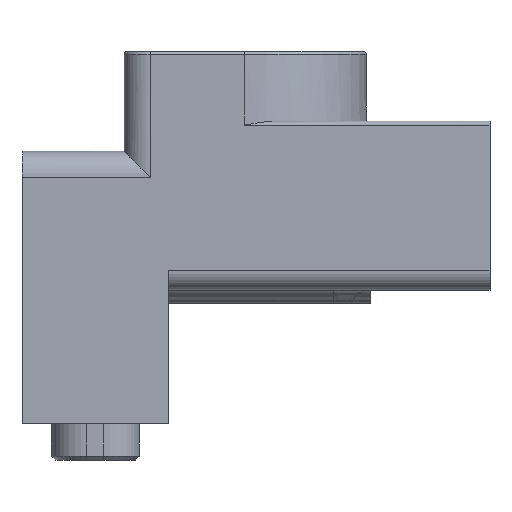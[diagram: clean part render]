
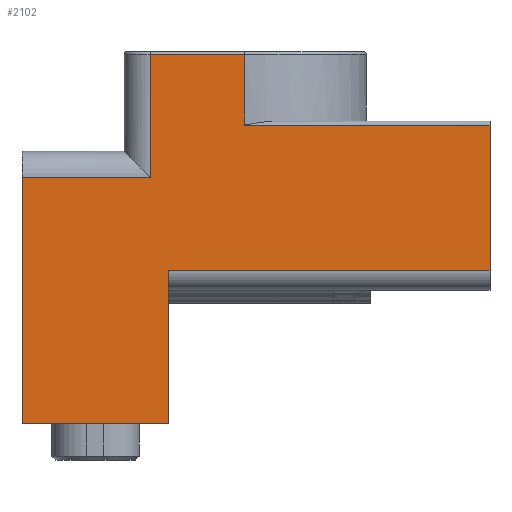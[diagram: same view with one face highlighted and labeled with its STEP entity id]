
A CAD part, left-side view. The second image highlights one B-rep face of the part: STEP entity #2102.
In plain terms, the highlighted planar face has unit normal (-1, 0, 0).
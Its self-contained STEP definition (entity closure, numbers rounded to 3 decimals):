
#45=DIRECTION('',(0.,-1.,0.));
#46=VECTOR('',#45,18.75);
#47=CARTESIAN_POINT('',(-9.3,19.5,65.2));
#48=LINE('',#47,#46);
#87=DIRECTION('',(0.,1.,0.));
#88=VECTOR('',#87,24.55);
#89=CARTESIAN_POINT('',(-9.3,0.75,54.1));
#90=LINE('',#89,#88);
#95=DIRECTION('',(0.,0.,1.));
#96=VECTOR('',#95,11.7);
#97=CARTESIAN_POINT('',(-9.3,25.3,42.4));
#98=LINE('',#97,#96);
#99=DIRECTION('',(0.,-1.,0.));
#100=VECTOR('',#99,11.2);
#101=CARTESIAN_POINT('',(-9.3,36.5,42.4));
#102=LINE('',#101,#100);
#103=DIRECTION('',(0.,0.,-1.));
#104=VECTOR('',#103,18.8);
#105=CARTESIAN_POINT('',(-9.3,36.5,61.2));
#106=LINE('',#105,#104);
#107=DIRECTION('',(0.,0.,1.));
#108=VECTOR('',#107,11.1);
#109=CARTESIAN_POINT('',(-9.3,0.75,54.1));
#110=LINE('',#109,#108);
#485=CARTESIAN_POINT('',(-9.3,19.5,65.2));
#492=DIRECTION('',(0.,0.,-1.));
#493=VECTOR('',#492,5.4);
#494=CARTESIAN_POINT('',(-9.3,19.5,70.6));
#495=LINE('',#494,#493);
#541=DIRECTION('',(0.,-1.,0.));
#542=VECTOR('',#541,7.2);
#543=CARTESIAN_POINT('',(-9.3,26.7,70.6));
#544=LINE('',#543,#542);
#1001=DIRECTION('',(0.,0.,1.));
#1002=VECTOR('',#1001,9.4);
#1003=CARTESIAN_POINT('',(-9.3,26.7,61.2));
#1004=LINE('',#1003,#1002);
#1027=DIRECTION('',(0.,-1.,0.));
#1028=VECTOR('',#1027,9.8);
#1029=CARTESIAN_POINT('',(-9.3,36.5,61.2));
#1030=LINE('',#1029,#1028);
#1625=CARTESIAN_POINT('',(-9.3,26.7,70.6));
#1627=VERTEX_POINT('',#1625);
#1634=CARTESIAN_POINT('',(-9.3,25.3,42.4));
#1635=CARTESIAN_POINT('',(-9.3,25.3,54.1));
#1636=VERTEX_POINT('',#1634);
#1637=VERTEX_POINT('',#1635);
#1718=VERTEX_POINT('',#485);
#1805=CARTESIAN_POINT('',(-9.3,36.5,61.2));
#1806=CARTESIAN_POINT('',(-9.3,36.5,42.4));
#1807=VERTEX_POINT('',#1805);
#1808=VERTEX_POINT('',#1806);
#1871=CARTESIAN_POINT('',(-9.3,0.75,54.1));
#1872=CARTESIAN_POINT('',(-9.3,0.75,65.2));
#1873=VERTEX_POINT('',#1871);
#1874=VERTEX_POINT('',#1872);
#1905=CARTESIAN_POINT('',(-9.3,26.7,61.2));
#1906=VERTEX_POINT('',#1905);
#1917=CARTESIAN_POINT('',(-9.3,19.5,70.6));
#1918=VERTEX_POINT('',#1917);
#2078=CARTESIAN_POINT('',(-9.3,0.,0.));
#2079=DIRECTION('',(1.,0.,0.));
#2080=DIRECTION('',(0.,0.,-1.));
#2081=AXIS2_PLACEMENT_3D('',#2078,#2079,#2080);
#2082=PLANE('',#2081);
#2083=ORIENTED_EDGE('',*,*,#2068,.T.);
#2085=ORIENTED_EDGE('',*,*,#2084,.F.);
#2087=ORIENTED_EDGE('',*,*,#2086,.F.);
#2089=ORIENTED_EDGE('',*,*,#2088,.F.);
#2091=ORIENTED_EDGE('',*,*,#2090,.T.);
#2093=ORIENTED_EDGE('',*,*,#2092,.T.);
#2095=ORIENTED_EDGE('',*,*,#2094,.T.);
#2097=ORIENTED_EDGE('',*,*,#2096,.T.);
#2098=ORIENTED_EDGE('',*,*,#2026,.T.);
#2099=ORIENTED_EDGE('',*,*,#2040,.F.);
#2100=EDGE_LOOP('',(#2083,#2085,#2087,#2089,#2091,#2093,#2095,#2097,#2098,
#2099));
#2101=FACE_OUTER_BOUND('',#2100,.F.);
#2102=ADVANCED_FACE('',(#2101),#2082,.F.);
#2026=EDGE_CURVE('',#1718,#1874,#48,.T.);
#2040=EDGE_CURVE('',#1873,#1874,#110,.T.);
#2068=EDGE_CURVE('',#1873,#1637,#90,.T.);
#2084=EDGE_CURVE('',#1636,#1637,#98,.T.);
#2086=EDGE_CURVE('',#1808,#1636,#102,.T.);
#2088=EDGE_CURVE('',#1807,#1808,#106,.T.);
#2090=EDGE_CURVE('',#1807,#1906,#1030,.T.);
#2092=EDGE_CURVE('',#1906,#1627,#1004,.T.);
#2094=EDGE_CURVE('',#1627,#1918,#544,.T.);
#2096=EDGE_CURVE('',#1918,#1718,#495,.T.);
